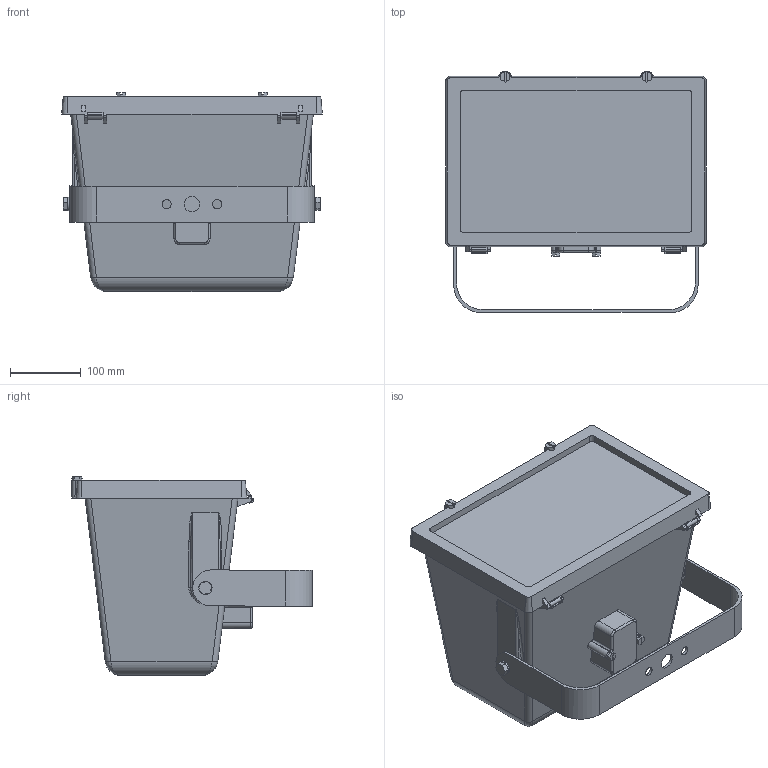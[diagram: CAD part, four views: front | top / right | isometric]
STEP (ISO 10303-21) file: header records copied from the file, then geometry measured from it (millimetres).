
FILE_DESCRIPTION (( 'STEP AP214' ), '1' );
FILE_NAME ('HALPRM.STEP', '2010-09-18T01:59:41', ( 'Owner' ), ( 'HOME' ), 'SwSTEP 2.0', 'SolidWorks 2008', '' );
FILE_SCHEMA (( 'AUTOMOTIVE_DESIGN' ));
Length unit declared in the file: inch
Products named in the file (5): mount; Bulb; body; HALPRM; lens
Assembly tree (4 placements, depth 2):
  HALPRM
    Bulb
    lens
    mount
    body
Bounding box: 368.3 x 340.15 x 281.31 mm (x, y, z)
Volume: 3465090.6 mm3; surface area: 1343118.3 mm2
Topology: 4 solids, 4 shells, 441 faces, 1141 edges, 705 vertices
Faces by surface type: plane 218, cylinder 153, bspline 42, torus 20, cone 8
Entity records: 21818 total; most frequent: CARTESIAN_POINT 11219, ORIENTED_EDGE 2262, DIRECTION 2126, EDGE_CURVE 1131, AXIS2_PLACEMENT_3D 732, VERTEX_POINT 705, VECTOR 662, LINE 662
